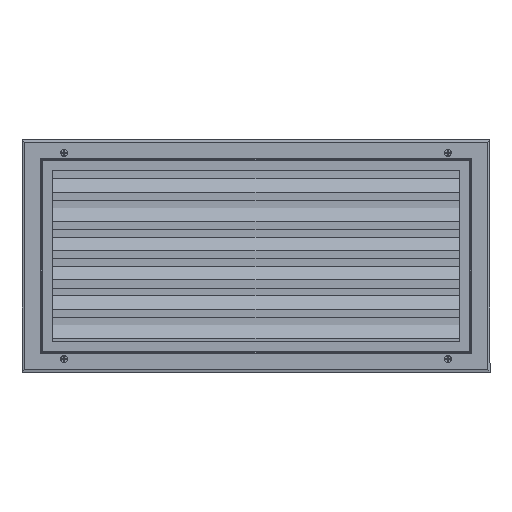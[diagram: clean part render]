
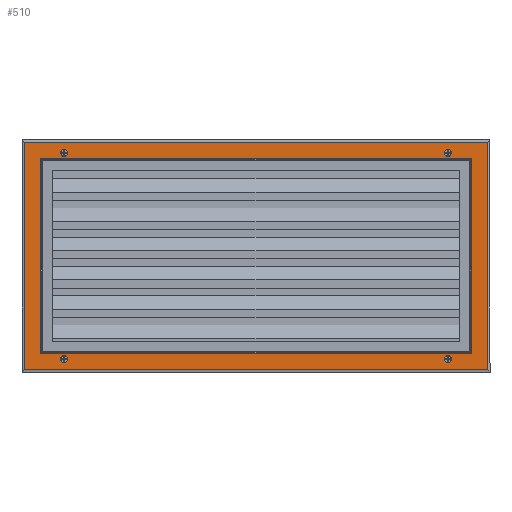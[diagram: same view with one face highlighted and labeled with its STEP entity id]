
A CAD part, top view. The second image highlights one B-rep face of the part: STEP entity #510.
In plain terms, the highlighted planar face has unit normal (0, 0, 1).
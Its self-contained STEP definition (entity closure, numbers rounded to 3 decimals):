
#16411 = CIRCLE ( 'NONE', #16412, 3. ) ;
#16412 = AXIS2_PLACEMENT_3D ( 'NONE', #16413, #16414, #16427 ) ;
#16413 = CARTESIAN_POINT ( 'NONE',  ( 164., -88.2, 14.5 ) ) ;
#16414 = DIRECTION ( 'NONE',  ( 0., 0., 1. ) ) ;
#16427 = DIRECTION ( 'NONE',  ( 0., -1., 0. ) ) ;
#49 = EDGE_LOOP ( 'NONE', ( #31016, #29821 ) ) ;
#382 = EDGE_CURVE ( 'NONE', #29992, #7401, #26006, .T. ) ;
#510 = ADVANCED_FACE ( 'NONE', ( #26101, #26102, #26130, #26131, #26132, #26133 ), #26134, .T. ) ;
#589 = ORIENTED_EDGE ( 'NONE', *, *, #14000, .F. ) ;
#590 = ORIENTED_EDGE ( 'NONE', *, *, #32305, .T. ) ;
#17476 = LINE ( 'NONE', #17477, #17478 ) ;
#17477 = CARTESIAN_POINT ( 'NONE',  ( 0., 83.7, 14.5 ) ) ;
#17478 = VECTOR ( 'NONE', #17479, 1000. ) ;
#17479 = DIRECTION ( 'NONE',  ( -1., 0., 0. ) ) ;
#17781 = VERTEX_POINT ( 'NONE', #15787 ) ;
#1461 = CARTESIAN_POINT ( 'NONE',  ( 184.5, -83.7, 14.5 ) ) ;
#17969 = EDGE_CURVE ( 'NONE', #8461, #10080, #15975, .T. ) ;
#1788 = ORIENTED_EDGE ( 'NONE', *, *, #28135, .F. ) ;
#1789 = EDGE_LOOP ( 'NONE', ( #590, #30074, #27460, #25126 ) ) ;
#1962 = CARTESIAN_POINT ( 'NONE',  ( -184.5, -83.7, 14.5 ) ) ;
#18348 = EDGE_CURVE ( 'NONE', #21389, #23004, #16411, .T. ) ;
#2350 = ORIENTED_EDGE ( 'NONE', *, *, #382, .F. ) ;
#2574 = LINE ( 'NONE', #2575, #2576 ) ;
#2575 = CARTESIAN_POINT ( 'NONE',  ( 0., -83.7, 14.5 ) ) ;
#2576 = VECTOR ( 'NONE', #2577, 1000. ) ;
#2577 = DIRECTION ( 'NONE',  ( 1., 0., 0. ) ) ;
#19304 = EDGE_CURVE ( 'NONE', #8068, #29992, #17476, .T. ) ;
#3009 = EDGE_LOOP ( 'NONE', ( #1788, #589 ) ) ;
#3214 = CARTESIAN_POINT ( 'NONE',  ( 184.5, 83.7, 14.5 ) ) ;
#19837 = CARTESIAN_POINT ( 'NONE',  ( 164., -91.2, 14.5 ) ) ;
#3554 = ORIENTED_EDGE ( 'NONE', *, *, #16260, .F. ) ;
#3555 = ORIENTED_EDGE ( 'NONE', *, *, #7721, .F. ) ;
#3776 = LINE ( 'NONE', #3777, #3778 ) ;
#3777 = CARTESIAN_POINT ( 'NONE',  ( 184.5, 0., 14.5 ) ) ;
#3778 = VECTOR ( 'NONE', #3779, 1000. ) ;
#3779 = DIRECTION ( 'NONE',  ( 0., 1., 0. ) ) ;
#20198 = CIRCLE ( 'NONE', #20199, 3. ) ;
#20199 = AXIS2_PLACEMENT_3D ( 'NONE', #20200, #20201, #20202 ) ;
#20200 = CARTESIAN_POINT ( 'NONE',  ( 164., -88.2, 14.5 ) ) ;
#20201 = DIRECTION ( 'NONE',  ( 0., 0., 1. ) ) ;
#20202 = DIRECTION ( 'NONE',  ( 0., -1., 0. ) ) ;
#3945 = CARTESIAN_POINT ( 'NONE',  ( -161., 88.2, 14.5 ) ) ;
#4557 = CIRCLE ( 'NONE', #4558, 3. ) ;
#4558 = AXIS2_PLACEMENT_3D ( 'NONE', #4559, #4560, #4584 ) ;
#4559 = CARTESIAN_POINT ( 'NONE',  ( -164., 88.2, 14.5 ) ) ;
#4560 = DIRECTION ( 'NONE',  ( 0., 0., 1. ) ) ;
#4584 = DIRECTION ( 'NONE',  ( 1., 0., 0. ) ) ;
#4767 = ORIENTED_EDGE ( 'NONE', *, *, #23526, .F. ) ;
#4768 = ORIENTED_EDGE ( 'NONE', *, *, #8380, .F. ) ;
#21389 = VERTEX_POINT ( 'NONE', #19837 ) ;
#21568 = CARTESIAN_POINT ( 'NONE',  ( 164., -85.2, 14.5 ) ) ;
#21734 = EDGE_CURVE ( 'NONE', #23004, #21389, #20198, .T. ) ;
#5881 = ORIENTED_EDGE ( 'NONE', *, *, #19304, .F. ) ;
#22315 = CIRCLE ( 'NONE', #22316, 3. ) ;
#22316 = AXIS2_PLACEMENT_3D ( 'NONE', #22317, #22318, #22319 ) ;
#22317 = CARTESIAN_POINT ( 'NONE',  ( -164., -88.2, 14.5 ) ) ;
#22318 = DIRECTION ( 'NONE',  ( 0., 0., 1. ) ) ;
#22319 = DIRECTION ( 'NONE',  ( 1., 0., 0. ) ) ;
#6051 = ORIENTED_EDGE ( 'NONE', *, *, #18348, .F. ) ;
#23004 = VERTEX_POINT ( 'NONE', #21568 ) ;
#6882 = CARTESIAN_POINT ( 'NONE',  ( -167., 88.2, 14.5 ) ) ;
#7086 = VERTEX_POINT ( 'NONE', #1461 ) ;
#23487 = LINE ( 'NONE', #23488, #23489 ) ;
#23488 = CARTESIAN_POINT ( 'NONE',  ( 198., 0., 14.5 ) ) ;
#23489 = VECTOR ( 'NONE', #23504, 1000. ) ;
#23504 = DIRECTION ( 'NONE',  ( 0., 1., 0. ) ) ;
#23526 = EDGE_CURVE ( 'NONE', #15939, #17781, #22315, .T. ) ;
#7172 = EDGE_LOOP ( 'NONE', ( #6051, #14378 ) ) ;
#7401 = VERTEX_POINT ( 'NONE', #1962 ) ;
#7721 = EDGE_CURVE ( 'NONE', #7401, #7086, #2574, .T. ) ;
#8068 = VERTEX_POINT ( 'NONE', #3214 ) ;
#24605 = EDGE_CURVE ( 'NONE', #26086, #31779, #23487, .T. ) ;
#8380 = EDGE_CURVE ( 'NONE', #7086, #8068, #3776, .T. ) ;
#24824 = CARTESIAN_POINT ( 'NONE',  ( 198., -97.2, 14.5 ) ) ;
#8461 = VERTEX_POINT ( 'NONE', #3945 ) ;
#25126 = ORIENTED_EDGE ( 'NONE', *, *, #24605, .T. ) ;
#8791 = EDGE_CURVE ( 'NONE', #10080, #8461, #4557, .T. ) ;
#25241 = LINE ( 'NONE', #25242, #25243 ) ;
#25242 = CARTESIAN_POINT ( 'NONE',  ( 0., -97.2, 14.5 ) ) ;
#25243 = VECTOR ( 'NONE', #25244, 1000. ) ;
#25244 = DIRECTION ( 'NONE',  ( 1., 0., 0. ) ) ;
#26006 = LINE ( 'NONE', #26007, #26008 ) ;
#26007 = CARTESIAN_POINT ( 'NONE',  ( -184.5, 0., 14.5 ) ) ;
#26008 = VECTOR ( 'NONE', #26009, 1000. ) ;
#26009 = DIRECTION ( 'NONE',  ( 0., -1., 0. ) ) ;
#26086 = VERTEX_POINT ( 'NONE', #24824 ) ;
#26101 = FACE_BOUND ( 'NONE', #7172, .T. ) ;
#26102 = FACE_BOUND ( 'NONE', #14030, .T. ) ;
#26130 = FACE_BOUND ( 'NONE', #3009, .T. ) ;
#26131 = FACE_BOUND ( 'NONE', #49, .T. ) ;
#26132 = FACE_BOUND ( 'NONE', #29256, .T. ) ;
#26133 = FACE_OUTER_BOUND ( 'NONE', #1789, .T. ) ;
#26134 = PLANE ( 'NONE',  #26135 ) ;
#26135 = AXIS2_PLACEMENT_3D ( 'NONE', #26136, #26137, #26138 ) ;
#26136 = CARTESIAN_POINT ( 'NONE',  ( -205.92, -101.088, 14.5 ) ) ;
#26137 = DIRECTION ( 'NONE',  ( 0., 0., 1. ) ) ;
#26138 = DIRECTION ( 'NONE',  ( 1., 0., 0. ) ) ;
#10080 = VERTEX_POINT ( 'NONE', #6882 ) ;
#26611 = EDGE_CURVE ( 'NONE', #28692, #26086, #25241, .T. ) ;
#26679 = CIRCLE ( 'NONE', #26680, 3. ) ;
#26680 = AXIS2_PLACEMENT_3D ( 'NONE', #26681, #26682, #26683 ) ;
#26681 = CARTESIAN_POINT ( 'NONE',  ( 164., 88.2, 14.5 ) ) ;
#26682 = DIRECTION ( 'NONE',  ( 0., 0., 1. ) ) ;
#26683 = DIRECTION ( 'NONE',  ( 0., -1., 0. ) ) ;
#27221 = CARTESIAN_POINT ( 'NONE',  ( -198., -97.2, 14.5 ) ) ;
#27460 = ORIENTED_EDGE ( 'NONE', *, *, #26611, .T. ) ;
#11100 = CARTESIAN_POINT ( 'NONE',  ( 164., 85.2, 14.5 ) ) ;
#11454 = CIRCLE ( 'NONE', #11455, 3. ) ;
#11455 = AXIS2_PLACEMENT_3D ( 'NONE', #11456, #11457, #11458 ) ;
#11456 = CARTESIAN_POINT ( 'NONE',  ( 164., 88.2, 14.5 ) ) ;
#11457 = DIRECTION ( 'NONE',  ( 0., 0., 1. ) ) ;
#11458 = DIRECTION ( 'NONE',  ( 0., -1., 0. ) ) ;
#27908 = LINE ( 'NONE', #27909, #27910 ) ;
#27909 = CARTESIAN_POINT ( 'NONE',  ( -198., 0., 14.5 ) ) ;
#27910 = VECTOR ( 'NONE', #27911, 1000. ) ;
#27911 = DIRECTION ( 'NONE',  ( 0., -1., 0. ) ) ;
#28135 = EDGE_CURVE ( 'NONE', #13671, #15295, #26679, .T. ) ;
#28692 = VERTEX_POINT ( 'NONE', #27221 ) ;
#28860 = CARTESIAN_POINT ( 'NONE',  ( -184.5, 83.7, 14.5 ) ) ;
#29213 = EDGE_CURVE ( 'NONE', #31273, #28692, #27908, .T. ) ;
#12866 = CARTESIAN_POINT ( 'NONE',  ( 164., 91.2, 14.5 ) ) ;
#29256 = EDGE_LOOP ( 'NONE', ( #5881, #4768, #3555, #2350 ) ) ;
#29821 = ORIENTED_EDGE ( 'NONE', *, *, #8791, .F. ) ;
#29992 = VERTEX_POINT ( 'NONE', #28860 ) ;
#13671 = VERTEX_POINT ( 'NONE', #11100 ) ;
#30074 = ORIENTED_EDGE ( 'NONE', *, *, #29213, .T. ) ;
#13704 = CARTESIAN_POINT ( 'NONE',  ( -161., -88.2, 14.5 ) ) ;
#30277 = CARTESIAN_POINT ( 'NONE',  ( -198., 97.2, 14.5 ) ) ;
#14000 = EDGE_CURVE ( 'NONE', #15295, #13671, #11454, .T. ) ;
#14017 = CIRCLE ( 'NONE', #14018, 3. ) ;
#14018 = AXIS2_PLACEMENT_3D ( 'NONE', #14019, #14020, #14021 ) ;
#14019 = CARTESIAN_POINT ( 'NONE',  ( -164., -88.2, 14.5 ) ) ;
#14020 = DIRECTION ( 'NONE',  ( 0., 0., 1. ) ) ;
#14021 = DIRECTION ( 'NONE',  ( 1., 0., 0. ) ) ;
#14030 = EDGE_LOOP ( 'NONE', ( #4767, #3554 ) ) ;
#14378 = ORIENTED_EDGE ( 'NONE', *, *, #21734, .F. ) ;
#30790 = CARTESIAN_POINT ( 'NONE',  ( 198., 97.2, 14.5 ) ) ;
#31016 = ORIENTED_EDGE ( 'NONE', *, *, #17969, .F. ) ;
#31273 = VERTEX_POINT ( 'NONE', #30277 ) ;
#31377 = LINE ( 'NONE', #31378, #31379 ) ;
#31378 = CARTESIAN_POINT ( 'NONE',  ( 0., 97.2, 14.5 ) ) ;
#31379 = VECTOR ( 'NONE', #31380, 1000. ) ;
#31380 = DIRECTION ( 'NONE',  ( -1., 0., 0. ) ) ;
#15295 = VERTEX_POINT ( 'NONE', #12866 ) ;
#31779 = VERTEX_POINT ( 'NONE', #30790 ) ;
#15787 = CARTESIAN_POINT ( 'NONE',  ( -167., -88.2, 14.5 ) ) ;
#32305 = EDGE_CURVE ( 'NONE', #31779, #31273, #31377, .T. ) ;
#15939 = VERTEX_POINT ( 'NONE', #13704 ) ;
#15975 = CIRCLE ( 'NONE', #15976, 3. ) ;
#15976 = AXIS2_PLACEMENT_3D ( 'NONE', #15977, #15978, #15979 ) ;
#15977 = CARTESIAN_POINT ( 'NONE',  ( -164., 88.2, 14.5 ) ) ;
#15978 = DIRECTION ( 'NONE',  ( 0., 0., 1. ) ) ;
#15979 = DIRECTION ( 'NONE',  ( 1., 0., 0. ) ) ;
#16260 = EDGE_CURVE ( 'NONE', #17781, #15939, #14017, .T. ) ;
